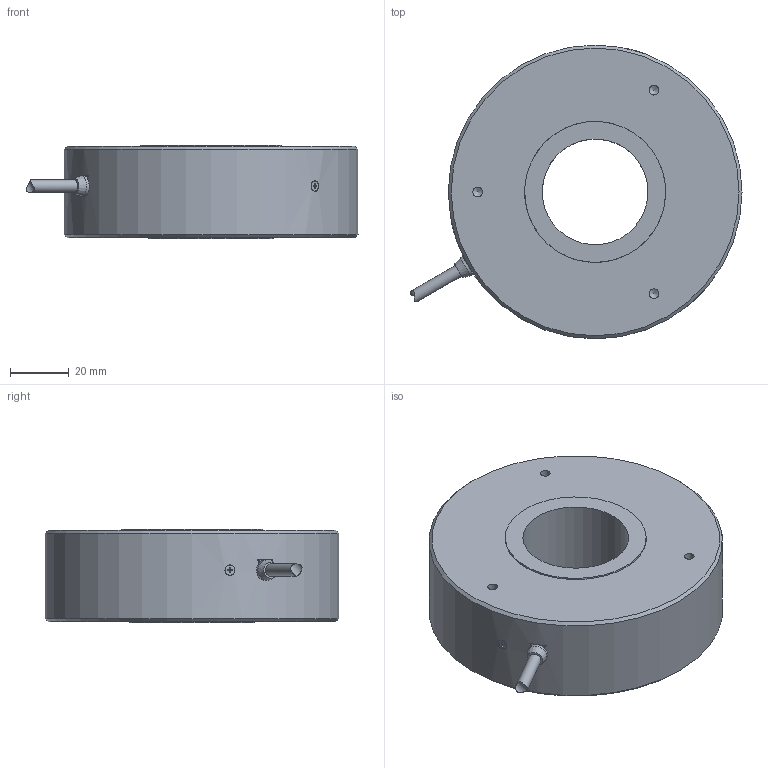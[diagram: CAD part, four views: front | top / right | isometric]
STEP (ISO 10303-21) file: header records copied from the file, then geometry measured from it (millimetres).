
FILE_DESCRIPTION(('STEP AP242'),'1');
FILE_NAME('N1.stp','2022-07-26T02:38:52',(' '),(' '),'Spatial InterOp 3D',' ',' ');
FILE_SCHEMA(('AP242_MANAGED_MODEL_BASED_3D_ENGINEERING_MIM_LF {1 0 10303 442 1 1 4}'));
Length unit declared in the file: millimetre
Products named in the file (8): L16L02 MAH-85-＊＊＊N1; サラコネジ M2x4 3種; 029946 4対8芯ケーブル(4.2)1M-MGH; ケーブルモデル1; ゴムプッシュ
Assembly tree (7 placements, depth 3):
  L16L02 MAH-85-＊＊＊N1
    L16L02 MAH-85-＊＊＊N1
    サラコネジ M2x4 3種
    サラコネジ M2x4 3種
    サラコネジ M2x4 3種
    029946 4対8芯ケーブル(4.2)1M-MGH
      ケーブルモデル1
      ゴムプッシュ
Bounding box: 113.05 x 100 x 32 mm (x, y, z)
Volume: 212444 mm3; surface area: 27908.2 mm2
Topology: 6 solids, 6 shells, 111 faces, 250 edges, 160 vertices
Faces by surface type: plane 67, cylinder 32, cone 12
Full cylindrical faces by diameter (mm): 2 x3, 2.5 x3, 3.3 x6, 3.5 x6, 4.2 x2, 7 x1, 36 x1, 42.6 x1, 48 x1, 100 x1
Entity records: 4466 total; most frequent: CARTESIAN_POINT 869, DIRECTION 489, ORIENTED_EDGE 410, EDGE_CURVE 205, AXIS2_PLACEMENT_3D 173, EDGE_LOOP 161, VERTEX_POINT 155, LINE 143
